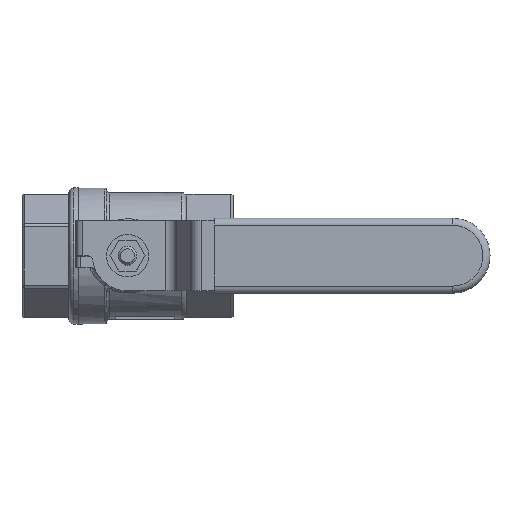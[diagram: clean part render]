
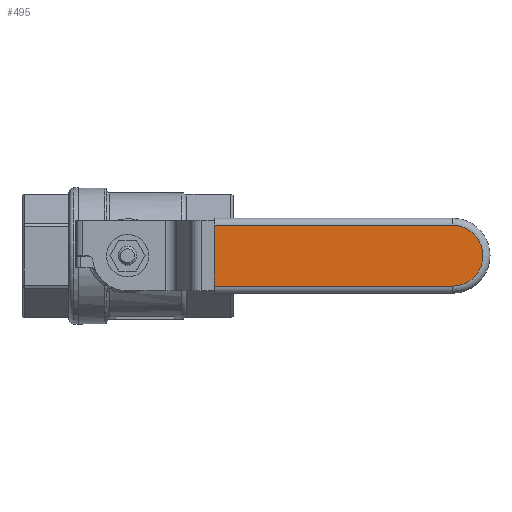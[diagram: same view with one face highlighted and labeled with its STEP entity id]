
A CAD part, top view. The second image highlights one B-rep face of the part: STEP entity #495.
In plain terms, the highlighted planar face has unit normal (0, 0, 1).
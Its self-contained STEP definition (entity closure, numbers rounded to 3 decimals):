
#495 = ADVANCED_FACE( '', ( #1245 ), #1246, .T. );
#1245 = FACE_OUTER_BOUND( '', #2347, .T. );
#1246 = PLANE( '', #2348 );
#2347 = EDGE_LOOP( '', ( #5615, #5616, #5617, #5618 ) );
#2348 = AXIS2_PLACEMENT_3D( '', #5619, #5620, #5621 );
#5615 = ORIENTED_EDGE( '', *, *, #8431, .T. );
#5616 = ORIENTED_EDGE( '', *, *, #8432, .T. );
#5617 = ORIENTED_EDGE( '', *, *, #8433, .T. );
#5618 = ORIENTED_EDGE( '', *, *, #8434, .T. );
#5619 = CARTESIAN_POINT( '', ( 183.5, 0., 80. ) );
#5620 = DIRECTION( '', ( 0., 0., 1. ) );
#5621 = DIRECTION( '', ( 1., 0., 0. ) );
#8431 = EDGE_CURVE( '', #9789, #9790, #9791, .T. );
#8432 = EDGE_CURVE( '', #9790, #9792, #9793, .T. );
#8433 = EDGE_CURVE( '', #9792, #9794, #9795, .T. );
#8434 = EDGE_CURVE( '', #9794, #9789, #9796, .T. );
#9789 = VERTEX_POINT( '', #12656 );
#9790 = VERTEX_POINT( '', #12657 );
#9791 = CIRCLE( '', #12658, 13. );
#9792 = VERTEX_POINT( '', #12659 );
#9793 = LINE( '', #12660, #12661 );
#9794 = VERTEX_POINT( '', #12662 );
#9795 = LINE( '', #12663, #12664 );
#9796 = LINE( '', #12665, #12666 );
#12656 = CARTESIAN_POINT( '', ( 183.5, -13., 80. ) );
#12657 = CARTESIAN_POINT( '', ( 183.5, 13., 80. ) );
#12658 = AXIS2_PLACEMENT_3D( '', #15221, #15222, #15223 );
#12659 = CARTESIAN_POINT( '', ( 82., 13., 80. ) );
#12660 = CARTESIAN_POINT( '', ( 183.5, 13., 80. ) );
#12661 = VECTOR( '', #15224, 1000. );
#12662 = CARTESIAN_POINT( '', ( 82., -13., 80. ) );
#12663 = CARTESIAN_POINT( '', ( 82., 16., 80. ) );
#12664 = VECTOR( '', #15225, 1000. );
#12665 = CARTESIAN_POINT( '', ( 183.5, -13., 80. ) );
#12666 = VECTOR( '', #15226, 1000. );
#15221 = CARTESIAN_POINT( '', ( 183.5, 0., 80. ) );
#15222 = DIRECTION( '', ( 0., 0., 1. ) );
#15223 = DIRECTION( '', ( 1., 0., 0. ) );
#15224 = DIRECTION( '', ( -1., 0., 0. ) );
#15225 = DIRECTION( '', ( 0., -1., 0. ) );
#15226 = DIRECTION( '', ( 1., 0., 0. ) );
